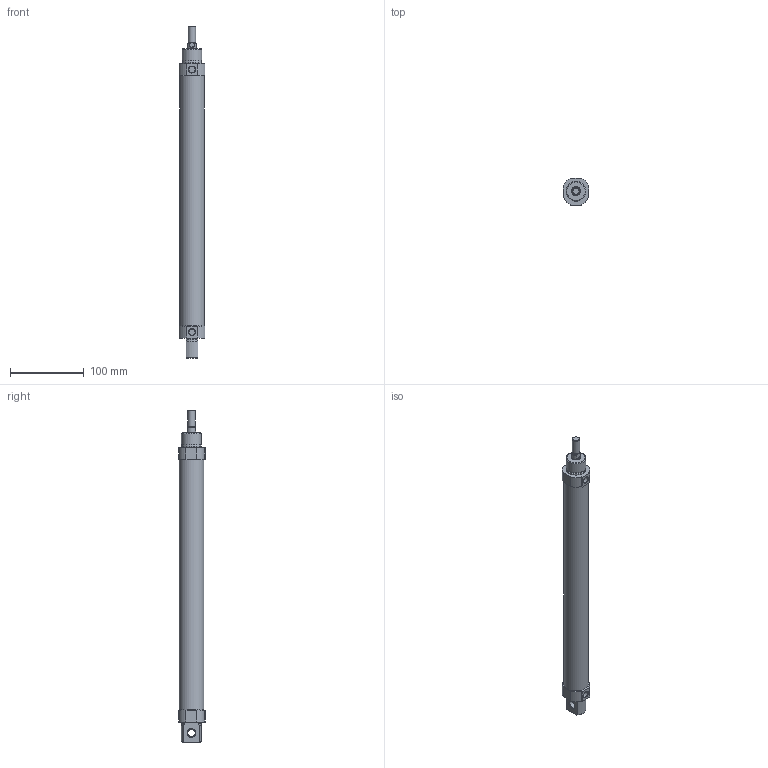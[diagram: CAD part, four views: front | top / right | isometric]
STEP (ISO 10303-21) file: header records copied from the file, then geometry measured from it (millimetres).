
FILE_DESCRIPTION((''),'2;1');
FILE_NAME('I:\3D電子目錄\氣缸\SDA\SDA32\SDA32\SDA32x300.stp','2007-08-06T10:35:39',('Administrator'),(''),'Autodesk Inventor 2008','Autodesk Inventor 2008','');
FILE_SCHEMA(('AUTOMOTIVE_DESIGN { 1 0 10303 214 1 1 1 1 }'));
Length unit declared in the file: millimetre
Products named in the file (1): SDA32X300
Bounding box: 35 x 36.5 x 450 mm (x, y, z)
Volume: 358928 mm3; surface area: 48207.6 mm2
Topology: 1 solids, 1 shells, 65 faces, 152 edges, 98 vertices
Faces by surface type: plane 27, cylinder 21, cone 12, torus 3, bspline 2
Full cylindrical faces by diameter (mm): 8.5 x2, 8.6 x1, 10 x2, 12 x1, 27 x2, 33.6 x1
Entity records: 1946 total; most frequent: CARTESIAN_POINT 486, DIRECTION 306, ORIENTED_EDGE 266, EDGE_CURVE 133, AXIS2_PLACEMENT_3D 121, VERTEX_POINT 97, EDGE_LOOP 94, FACE_OUTER_BOUND 65
